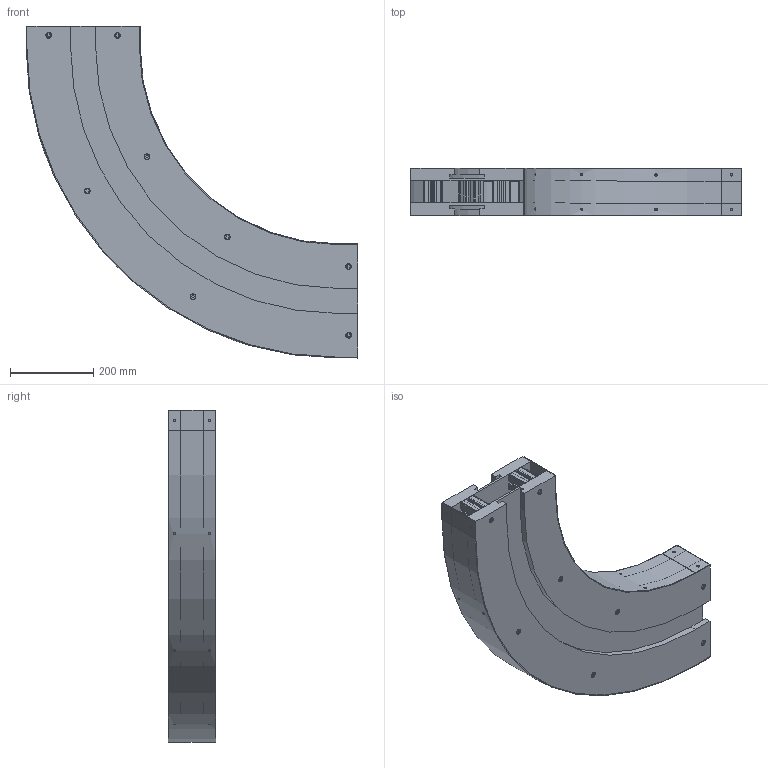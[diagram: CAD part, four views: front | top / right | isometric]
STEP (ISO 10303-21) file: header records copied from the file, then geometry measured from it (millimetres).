
FILE_DESCRIPTION (( 'STEP AP203' ), '1' );
FILE_NAME ('2000.1000.490.STEP', '2021-03-25T10:55:59', ( 'Localadmin' ), ( 'Microsoft' ), 'SwSTEP 2.0', 'SolidWorks 2018', '' );
FILE_SCHEMA (( 'CONFIG_CONTROL_DESIGN' ));
Length unit declared in the file: millimetre
Products named in the file (6): 084.301.000 VITI ALUSIC_084.301.013; 2000.1000.490; 2000.1000.404_2000.1000.404; 2000.001.401_Default<Lavorato>; 2000.1000.491; 2000.1000.492
Assembly tree (28 placements, depth 2):
  2000.1000.490
    2000.1000.404_2000.1000.404  x2
    2000.001.401_Default<Lavorato>  x8
    2000.1000.491
    2000.1000.492
    084.301.000 VITI ALUSIC_084.301.013  x16
Bounding box: 797 x 113 x 797 mm (x, y, z)
Volume: 14411395.3 mm3; surface area: 2260489.7 mm2
Topology: 28 solids, 28 shells, 1264 faces, 3400 edges, 2240 vertices
Faces by surface type: plane 800, cylinder 376, cone 32, torus 32, bspline 24
Entity records: 13778 total; most frequent: CARTESIAN_POINT 5911, ORIENTED_EDGE 1376, DIRECTION 1340, EDGE_CURVE 688, AXIS2_PLACEMENT_3D 461, VERTEX_POINT 452, LINE 418, VECTOR 418
